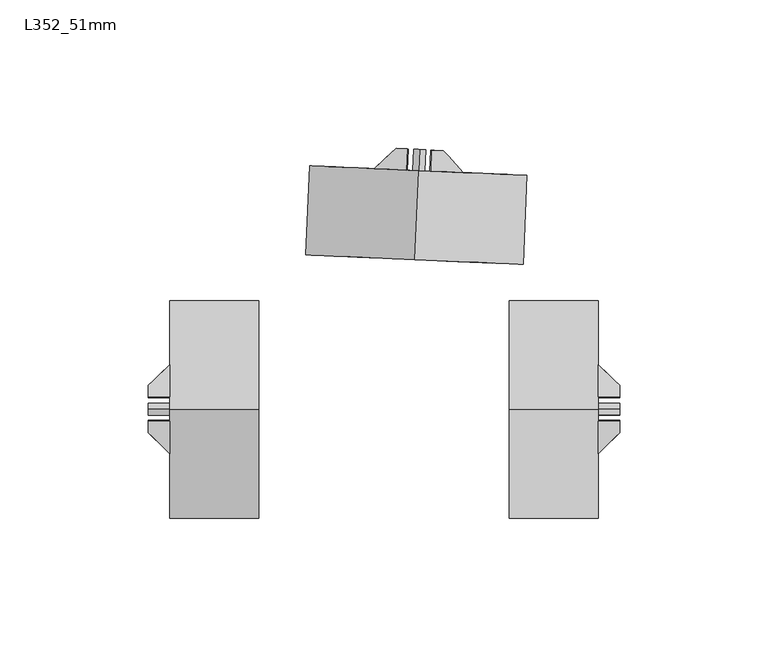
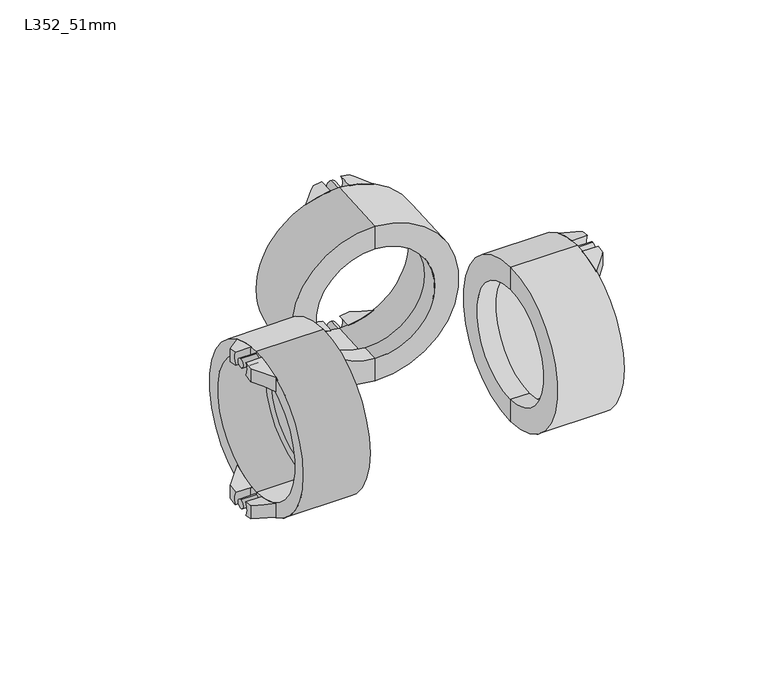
"""IFC4 building model written with IfcOpenShell, lengths in millimetres: pipe fitting geometry, Durapipe_PipeFitting_VulcatheneEnfusion_DoubleBranch_L35 : L352_51mm."""

from ifc_helpers import new_model, si_unit, point, frame, frame_2d, origin, place, context, project, spatial, polyline, circle_curve, ellipse_curve, trimmed, segment, composite_curve, outline, extrude, source, transform, mapped, element, save
from ifc_brep_helpers import plane_surface, cylinder_surface, revolved_surface, advanced_brep


def l352_51mm_22d35eec(model_context):
    return source(origin(), model_context, "Body", "SolidModel", [
        advanced_brep(
        [(71.122287, -3.7899065, 30.2636186), (71.122287, -4.1501333, 36.3136186), (71.122287, -7.94, 35.6771481), (71.122287, -7.94, 29.4483684), (64.022287, -15.0, 33.330204), (64.022287, -4.1501333, 36.3136186), (64.022287, -3.7899065, 30.2636186), (64.022287, -15.0, 26.5565434)],
        [
            (0, 1, circle_curve(frame((71.122287, 0.0, 33.525), z_axis=(-1.0, 0.0, 0.0), x_axis=(0.0, 0.0, -1.0)), 5.0)),
            (1, 2, circle_curve(frame((71.122287, 0.0, 0.0), z_axis=(1.0, 0.0, 0.0), x_axis=(0.0, 0.0, -1.0)), 36.55)),
            (2, 3),
            (3, 0, circle_curve(frame((71.122287, 0.0, 0.0), z_axis=(-1.0, 0.0, 0.0), x_axis=(0.0, 0.0, -1.0)), 30.5)),
            (4, 5, circle_curve(frame((64.022287, 0.0, 0.0), z_axis=(-1.0, 0.0, 0.0), x_axis=(0.0, 0.0, -1.0)), 36.55)),
            (5, 6, circle_curve(frame((64.022287, 0.0, 33.525), z_axis=(1.0, 0.0, 0.0), x_axis=(0.0, 0.0, -1.0)), 5.0)),
            (6, 7, circle_curve(frame((64.022287, 0.0, 0.0), z_axis=(1.0, 0.0, 0.0), x_axis=(0.0, 0.0, -1.0)), 30.5)),
            (7, 4),
            (6, 0),
            (3, 7, ellipse_curve(frame((79.1072729, 0.0, 0.0), z_axis=(0.705106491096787, -0.7091014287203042, 0.0), x_axis=(-0.7091014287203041, -0.705106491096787, 0.0)), 43.2558775, 30.5)),
            (4, 2, ellipse_curve(frame((79.1072729, 0.0, 0.0), z_axis=(-0.705106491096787, 0.7091014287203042, 0.0), x_axis=(0.7091014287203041, 0.705106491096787, 0.0)), 51.8361417, 36.55)),
            (1, 5),
        ],
        [
            plane_surface(frame((71.122287, -15.0, 33.330204), z_axis=(1.0, 0.0, 0.0), x_axis=(0.0, 0.0, -1.0))),
            plane_surface(frame((64.022287, -15.0, 33.330204), z_axis=(-1.0, 0.0, 0.0), x_axis=(0.0, 0.0, 1.0))),
            revolved_surface(polyline([(48.434468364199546, 0.0, -30.5), (109.78007743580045, 0.0, -30.5)]), (64.022287, 0.0, 0.0), (-1.0, 0.0, 0.0)),
            cylinder_surface(frame((64.022287, 0.0, 0.0), z_axis=(1.0, 0.0, 0.0), x_axis=(0.0, 0.0, -1.0)), 36.55),
            revolved_surface(polyline([(71.122287, 0.0, 28.525), (64.022287, 0.0, 28.525)]), (64.022287, 0.0, 33.525), (1.0, 0.0, 0.0)),
            plane_surface(frame((64.022287, -15.0, -36.55), z_axis=(0.705106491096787, -0.7091014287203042, 0.0), x_axis=(0.0, 0.0, 1.0))),
        ],
        [
            (0, [[1, 2, 3, 4]]),
            (1, [[5, 6, 7, 8]]),
            (2, [[-7, 9, -4, 10]]),
            (3, [[-5, 11, -2, 12]]),
            (4, [[-1, -9, -6, -12]]),
            (5, [[-3, -11, -8, -10]]),
        ],
    ),
        advanced_brep(
        [(71.122287, 4.1501333, 36.3136186), (71.122287, 3.7899065, 30.2636186), (71.122287, 7.94, 29.4483684), (71.122287, 7.94, 35.6771481), (64.022287, 4.1501333, 36.3136186), (64.022287, 15.0, 33.330204), (64.022287, 15.0, 26.5565434), (64.022287, 3.7899065, 30.2636186)],
        [
            (0, 1, circle_curve(frame((71.122287, 0.0, 33.525), z_axis=(-1.0, 0.0, 0.0), x_axis=(0.0, 0.0, -1.0)), 5.0)),
            (1, 2, circle_curve(frame((71.122287, 0.0, 0.0), z_axis=(-1.0, 0.0, 0.0), x_axis=(0.0, 0.0, -1.0)), 30.5)),
            (2, 3),
            (3, 0, circle_curve(frame((71.122287, 0.0, 0.0), z_axis=(1.0, 0.0, 0.0), x_axis=(0.0, 0.0, -1.0)), 36.55)),
            (4, 5, circle_curve(frame((64.022287, 0.0, 0.0), z_axis=(-1.0, 0.0, 0.0), x_axis=(0.0, 0.0, -1.0)), 36.55)),
            (5, 6),
            (6, 7, circle_curve(frame((64.022287, 0.0, 0.0), z_axis=(1.0, 0.0, 0.0), x_axis=(0.0, 0.0, -1.0)), 30.5)),
            (7, 4, circle_curve(frame((64.022287, 0.0, 33.525), z_axis=(1.0, 0.0, 0.0), x_axis=(0.0, 0.0, -1.0)), 5.0)),
            (6, 2, ellipse_curve(frame((79.1072729, 0.0, 0.0), z_axis=(0.7051064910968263, 0.7091014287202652, 0.0), x_axis=(-0.7091014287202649, 0.7051064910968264, 0.0)), 43.2558775, 30.5)),
            (1, 7),
            (4, 0),
            (3, 5, ellipse_curve(frame((79.1072729, 0.0, 0.0), z_axis=(-0.7051064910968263, -0.7091014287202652, 0.0), x_axis=(0.7091014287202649, -0.7051064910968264, 0.0)), 51.8361417, 36.55)),
        ],
        [
            plane_surface(frame((71.122287, -15.0, 33.330204), z_axis=(1.0, 0.0, 0.0), x_axis=(0.0, 0.0, -1.0))),
            plane_surface(frame((64.022287, -15.0, 33.330204), z_axis=(-1.0, 0.0, 0.0), x_axis=(0.0, 0.0, 1.0))),
            revolved_surface(polyline([(48.43446836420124, 0.0, -30.5), (109.78007743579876, 0.0, -30.5)]), (64.022287, 0.0, 0.0), (-1.0, 0.0, 0.0)),
            cylinder_surface(frame((64.022287, 0.0, 0.0), z_axis=(1.0, 0.0, 0.0), x_axis=(0.0, 0.0, -1.0)), 36.55),
            revolved_surface(polyline([(71.122287, 0.0, 28.525), (64.022287, 0.0, 28.525)]), (64.022287, 0.0, 33.525), (1.0, 0.0, 0.0)),
            plane_surface(frame((71.122287, 7.94, -36.55), z_axis=(0.7051064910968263, 0.7091014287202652, 0.0), x_axis=(0.0, 0.0, 1.0))),
        ],
        [
            (0, [[1, 2, 3, 4]]),
            (1, [[5, 6, 7, 8]]),
            (2, [[-7, 9, -2, 10]]),
            (3, [[-5, 11, -4, 12]]),
            (4, [[-1, -11, -8, -10]]),
            (5, [[-3, -9, -6, -12]]),
        ],
    ),
        advanced_brep(
        [(71.122287, -4.1501333, -36.3136186), (71.122287, -3.7899065, -30.2636186), (71.122287, -7.94, -29.4483684), (71.122287, -7.94, -35.6771481), (64.022287, -4.1501333, -36.3136186), (64.022287, -15.0, -33.330204), (64.022287, -15.0, -26.5565434), (64.022287, -3.7899065, -30.2636186)],
        [
            (0, 1, circle_curve(frame((71.122287, 0.0, -33.525), z_axis=(-1.0, 0.0, 0.0), x_axis=(0.0, 0.0, -1.0)), 5.0)),
            (1, 2, circle_curve(frame((71.122287, 0.0, 0.0), z_axis=(-1.0, 0.0, 0.0), x_axis=(0.0, 0.0, -1.0)), 30.5)),
            (2, 3),
            (3, 0, circle_curve(frame((71.122287, 0.0, 0.0), z_axis=(1.0, 0.0, 0.0), x_axis=(0.0, 0.0, -1.0)), 36.55)),
            (4, 5, circle_curve(frame((64.022287, 0.0, 0.0), z_axis=(-1.0, 0.0, 0.0), x_axis=(0.0, 0.0, -1.0)), 36.55)),
            (5, 6),
            (6, 7, circle_curve(frame((64.022287, 0.0, 0.0), z_axis=(1.0, 0.0, 0.0), x_axis=(0.0, 0.0, -1.0)), 30.5)),
            (7, 4, circle_curve(frame((64.022287, 0.0, -33.525), z_axis=(1.0, 0.0, 0.0), x_axis=(0.0, 0.0, -1.0)), 5.0)),
            (6, 2, ellipse_curve(frame((79.1072729, 0.0, 0.0), z_axis=(0.705106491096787, -0.7091014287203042, 0.0), x_axis=(-0.7091014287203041, -0.705106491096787, 0.0)), 43.2558775, 30.5)),
            (1, 7),
            (4, 0),
            (3, 5, ellipse_curve(frame((79.1072729, 0.0, 0.0), z_axis=(-0.705106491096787, 0.7091014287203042, 0.0), x_axis=(0.7091014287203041, 0.705106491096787, 0.0)), 51.8361417, 36.55)),
        ],
        [
            plane_surface(frame((71.122287, -15.0, 33.330204), z_axis=(1.0, 0.0, 0.0), x_axis=(0.0, 0.0, -1.0))),
            plane_surface(frame((64.022287, -15.0, 33.330204), z_axis=(-1.0, 0.0, 0.0), x_axis=(0.0, 0.0, 1.0))),
            revolved_surface(polyline([(48.434468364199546, 0.0, -30.5), (109.78007743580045, 0.0, -30.5)]), (64.022287, 0.0, 0.0), (-1.0, 0.0, 0.0)),
            cylinder_surface(frame((64.022287, 0.0, 0.0), z_axis=(1.0, 0.0, 0.0), x_axis=(0.0, 0.0, -1.0)), 36.55),
            revolved_surface(polyline([(71.122287, 0.0, -38.525), (64.022287, 0.0, -38.525)]), (64.022287, 0.0, -33.525), (1.0, 0.0, 0.0)),
            plane_surface(frame((64.022287, -15.0, -36.55), z_axis=(0.705106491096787, -0.7091014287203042, 0.0), x_axis=(0.0, 0.0, 1.0))),
        ],
        [
            (0, [[1, 2, 3, 4]]),
            (1, [[5, 6, 7, 8]]),
            (2, [[-7, 9, -2, 10]]),
            (3, [[-5, 11, -4, 12]]),
            (4, [[-1, -11, -8, -10]]),
            (5, [[-3, -9, -6, -12]]),
        ],
    ),
        advanced_brep(
        [(71.122287, 3.7899065, -30.2636186), (71.122287, 4.1501333, -36.3136186), (71.122287, 7.94, -35.6771481), (71.122287, 7.94, -29.4483684), (64.022287, 15.0, -33.330204), (64.022287, 4.1501333, -36.3136186), (64.022287, 3.7899065, -30.2636186), (64.022287, 15.0, -26.5565434)],
        [
            (0, 1, circle_curve(frame((71.122287, 0.0, -33.525), z_axis=(-1.0, 0.0, 0.0), x_axis=(0.0, 0.0, -1.0)), 5.0)),
            (1, 2, circle_curve(frame((71.122287, 0.0, 0.0), z_axis=(1.0, 0.0, 0.0), x_axis=(0.0, 0.0, -1.0)), 36.55)),
            (2, 3),
            (3, 0, circle_curve(frame((71.122287, 0.0, 0.0), z_axis=(-1.0, 0.0, 0.0), x_axis=(0.0, 0.0, -1.0)), 30.5)),
            (4, 5, circle_curve(frame((64.022287, 0.0, 0.0), z_axis=(-1.0, 0.0, 0.0), x_axis=(0.0, 0.0, -1.0)), 36.55)),
            (5, 6, circle_curve(frame((64.022287, 0.0, -33.525), z_axis=(1.0, 0.0, 0.0), x_axis=(0.0, 0.0, -1.0)), 5.0)),
            (6, 7, circle_curve(frame((64.022287, 0.0, 0.0), z_axis=(1.0, 0.0, 0.0), x_axis=(0.0, 0.0, -1.0)), 30.5)),
            (7, 4),
            (6, 0),
            (3, 7, ellipse_curve(frame((79.1072729, 0.0, 0.0), z_axis=(0.7051064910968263, 0.7091014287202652, 0.0), x_axis=(-0.7091014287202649, 0.7051064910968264, 0.0)), 43.2558775, 30.5)),
            (4, 2, ellipse_curve(frame((79.1072729, 0.0, 0.0), z_axis=(-0.7051064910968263, -0.7091014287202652, 0.0), x_axis=(0.7091014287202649, -0.7051064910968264, 0.0)), 51.8361417, 36.55)),
            (1, 5),
        ],
        [
            plane_surface(frame((71.122287, -15.0, 33.330204), z_axis=(1.0, 0.0, 0.0), x_axis=(0.0, 0.0, -1.0))),
            plane_surface(frame((64.022287, -15.0, 33.330204), z_axis=(-1.0, 0.0, 0.0), x_axis=(0.0, 0.0, 1.0))),
            revolved_surface(polyline([(48.43446836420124, 0.0, -30.5), (109.78007743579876, 0.0, -30.5)]), (64.022287, 0.0, 0.0), (-1.0, 0.0, 0.0)),
            cylinder_surface(frame((64.022287, 0.0, 0.0), z_axis=(1.0, 0.0, 0.0), x_axis=(0.0, 0.0, -1.0)), 36.55),
            revolved_surface(polyline([(71.122287, 0.0, -38.525), (64.022287, 0.0, -38.525)]), (64.022287, 0.0, -33.525), (1.0, 0.0, 0.0)),
            plane_surface(frame((71.122287, 7.94, -36.55), z_axis=(0.7051064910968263, 0.7091014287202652, 0.0), x_axis=(0.0, 0.0, 1.0))),
        ],
        [
            (0, [[1, 2, 3, 4]]),
            (1, [[5, 6, 7, 8]]),
            (2, [[-7, 9, -4, 10]]),
            (3, [[-5, 11, -2, 12]]),
            (4, [[-1, -9, -6, -12]]),
            (5, [[-3, -11, -8, -10]]),
        ],
    ),
        extrude(outline(composite_curve([segment(trimmed(circle_curve(frame_2d((0.0, 33.525)), 2.0), [point((0.0, 35.525))], [point((0.0, 31.525))], False, "CARTESIAN"), True, "CONTINUOUS"), segment(trimmed(circle_curve(frame_2d((0.0, 33.525)), 2.0), [point((0.0, 31.525))], [point((0.0, 35.525))], False, "CARTESIAN"), True, "CONTINUOUS")], self_intersect=False)), frame((64.022287, 0.0, 0.0), z_axis=(1.0, 0.0, 0.0), x_axis=(0.0, 1.0, 0.0)), (0.0, 0.0, 1.0), 7.1),
        extrude(outline(composite_curve([segment(trimmed(circle_curve(frame_2d((0.0, -33.525)), 2.0), [point((0.0, -31.525))], [point((0.0, -35.525))], False, "CARTESIAN"), True, "CONTINUOUS"), segment(trimmed(circle_curve(frame_2d((0.0, -33.525)), 2.0), [point((0.0, -35.525))], [point((0.0, -31.525))], False, "CARTESIAN"), True, "CONTINUOUS")], self_intersect=False)), frame((64.022287, 0.0, 0.0), z_axis=(1.0, 0.0, 0.0), x_axis=(0.0, 1.0, 0.0)), (0.0, 0.0, 1.0), 7.1),
        advanced_brep(
        [(42.422287, 0.0, 26.15), (42.422287, 0.0, -26.15), (42.422287, 0.0, -30.35), (42.422287, 0.0, 30.35), (34.022287, 0.0, 26.15), (34.022287, 0.0, -26.15), (34.022287, 0.0, 36.7), (34.022287, 0.0, -36.7), (64.022287, 0.0, 36.7), (64.022287, 0.0, -36.7), (64.022287, 0.0, 30.35), (64.022287, 0.0, -30.35)],
        [
            (0, 1, circle_curve(frame((42.422287, 0.0, 0.0), z_axis=(-1.0, 0.0, 0.0), x_axis=(0.0, 0.0, -1.0)), 26.15)),
            (1, 2),
            (2, 3, circle_curve(frame((42.422287, 0.0, 0.0), z_axis=(1.0, 0.0, 0.0), x_axis=(0.0, 0.0, -1.0)), 30.35)),
            (3, 0),
            (1, 0, circle_curve(frame((42.422287, 0.0, 0.0), z_axis=(-1.0, 0.0, 0.0), x_axis=(0.0, 0.0, -1.0)), 26.15)),
            (3, 2, circle_curve(frame((42.422287, 0.0, 0.0), z_axis=(1.0, 0.0, 0.0), x_axis=(0.0, 0.0, -1.0)), 30.35)),
            (4, 5, circle_curve(frame((34.022287, 0.0, 0.0), z_axis=(-1.0, 0.0, 0.0), x_axis=(0.0, 0.0, -1.0)), 26.15)),
            (5, 1),
            (0, 4),
            (5, 4, circle_curve(frame((34.022287, 0.0, 0.0), z_axis=(-1.0, 0.0, 0.0), x_axis=(0.0, 0.0, -1.0)), 26.15)),
            (6, 7, circle_curve(frame((34.022287, 0.0, 0.0), z_axis=(-1.0, 0.0, 0.0), x_axis=(0.0, 0.0, -1.0)), 36.7)),
            (7, 5),
            (4, 6),
            (7, 6, circle_curve(frame((34.022287, 0.0, 0.0), z_axis=(-1.0, 0.0, 0.0), x_axis=(0.0, 0.0, -1.0)), 36.7)),
            (8, 9, circle_curve(frame((64.022287, 0.0, 0.0), z_axis=(-1.0, 0.0, 0.0), x_axis=(0.0, 0.0, -1.0)), 36.7)),
            (9, 7),
            (6, 8),
            (9, 8, circle_curve(frame((64.022287, 0.0, 0.0), z_axis=(-1.0, 0.0, 0.0), x_axis=(0.0, 0.0, -1.0)), 36.7)),
            (10, 11, circle_curve(frame((64.022287, 0.0, 0.0), z_axis=(-1.0, 0.0, 0.0), x_axis=(0.0, 0.0, -1.0)), 30.35)),
            (11, 9),
            (8, 10),
            (11, 10, circle_curve(frame((64.022287, 0.0, 0.0), z_axis=(-1.0, 0.0, 0.0), x_axis=(0.0, 0.0, -1.0)), 30.35)),
            (2, 11),
            (10, 3),
        ],
        [
            plane_surface(frame((42.422287, 0.0, 0.0), z_axis=(1.0, 0.0, 0.0), x_axis=(0.0, 0.0, -1.0))),
            revolved_surface(polyline([(42.42228699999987, 0.0, -26.15), (34.02228699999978, 0.0, -26.15)]), (2578.0049111, 0.0, 0.0), (1.0, 0.0, 0.0)),
            plane_surface(frame((34.022287, 0.0, 0.0), z_axis=(-1.0, 0.0, 0.0), x_axis=(0.0, 0.0, -1.0))),
            cylinder_surface(frame((2578.0049111, 0.0, 0.0), z_axis=(1.0, 0.0, 0.0), x_axis=(0.0, 0.0, -1.0)), 36.7),
            plane_surface(frame((64.022287, 0.0, 0.0), z_axis=(1.0, 0.0, 0.0), x_axis=(0.0, 0.0, -1.0))),
            revolved_surface(polyline([(64.02228699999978, 0.0, -30.35), (42.42228699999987, 0.0, -30.35)]), (2578.0049111, 0.0, 0.0), (1.0, 0.0, 0.0)),
        ],
        [
            (0, [[1, 2, 3, 4]]),
            (0, [[5, -4, 6, -2]]),
            (1, [[7, 8, -1, 9]]),
            (1, [[10, -9, -5, -8]]),
            (2, [[11, 12, -7, 13]]),
            (2, [[14, -13, -10, -12]]),
            (3, [[15, 16, -11, 17]]),
            (3, [[18, -17, -14, -16]]),
            (4, [[19, 20, -15, 21]]),
            (4, [[22, -21, -18, -20]]),
            (5, [[-3, 23, -19, 24]]),
            (5, [[-6, -24, -22, -23]]),
        ],
    ),
        advanced_brep(
        [(-87.477713, -3.7899065, -30.2636186), (-87.477713, -4.1501333, -36.3136186), (-87.477713, -7.94, -35.6771481), (-87.477713, -7.94, -29.4483684), (-80.377713, -15.0, -33.330204), (-80.377713, -4.1501333, -36.3136186), (-80.377713, -3.7899065, -30.2636186), (-80.377713, -15.0, -26.5565434)],
        [
            (0, 1, circle_curve(frame((-87.477713, 0.0, -33.525), z_axis=(1.0, 0.0, 0.0), x_axis=(0.0, 0.0, 1.0)), 5.0)),
            (1, 2, circle_curve(frame((-87.477713, 0.0, 0.0), z_axis=(-1.0, 0.0, 0.0), x_axis=(0.0, 0.0, 1.0)), 36.55)),
            (2, 3),
            (3, 0, circle_curve(frame((-87.477713, 0.0, 0.0), z_axis=(1.0, 0.0, 0.0), x_axis=(0.0, 0.0, 1.0)), 30.5)),
            (4, 5, circle_curve(frame((-80.377713, 0.0, 0.0), z_axis=(1.0, 0.0, 0.0), x_axis=(0.0, 0.0, 1.0)), 36.55)),
            (5, 6, circle_curve(frame((-80.377713, 0.0, -33.525), z_axis=(-1.0, 0.0, 0.0), x_axis=(0.0, 0.0, 1.0)), 5.0)),
            (6, 7, circle_curve(frame((-80.377713, 0.0, 0.0), z_axis=(-1.0, 0.0, 0.0), x_axis=(0.0, 0.0, 1.0)), 30.5)),
            (7, 4),
            (6, 0),
            (3, 7, ellipse_curve(frame((-95.4626988, 0.0, 0.0), z_axis=(-0.705106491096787, -0.7091014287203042, 0.0), x_axis=(0.7091014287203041, -0.7051064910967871, 0.0)), 43.2558775, 30.5)),
            (4, 2, ellipse_curve(frame((-95.4626988, 0.0, 0.0), z_axis=(0.705106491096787, 0.7091014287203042, 0.0), x_axis=(-0.7091014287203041, 0.7051064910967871, 0.0)), 51.8361417, 36.55)),
            (1, 5),
        ],
        [
            plane_surface(frame((-87.477713, -15.0, -33.330204), z_axis=(-1.0, 0.0, 0.0), x_axis=(0.0, 0.0, 1.0))),
            plane_surface(frame((-80.377713, -15.0, -33.330204), z_axis=(1.0, 0.0, 0.0), x_axis=(0.0, 0.0, -1.0))),
            revolved_surface(polyline([(-64.78989426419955, 0.0, 30.5), (-126.13550333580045, 0.0, 30.5)]), (-80.377713, 0.0, 0.0), (1.0, 0.0, 0.0)),
            cylinder_surface(frame((-80.377713, 0.0, 0.0), z_axis=(-1.0, 0.0, 0.0), x_axis=(0.0, 0.0, 1.0)), 36.55),
            revolved_surface(polyline([(-87.477713, 0.0, -28.525), (-80.377713, 0.0, -28.525)]), (-80.377713, 0.0, -33.525), (-1.0, 0.0, 0.0)),
            plane_surface(frame((-80.377713, -15.0, 36.55), z_axis=(-0.705106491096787, -0.7091014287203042, 0.0), x_axis=(0.0, 0.0, -1.0))),
        ],
        [
            (0, [[1, 2, 3, 4]]),
            (1, [[5, 6, 7, 8]]),
            (2, [[-7, 9, -4, 10]]),
            (3, [[-5, 11, -2, 12]]),
            (4, [[-1, -9, -6, -12]]),
            (5, [[-3, -11, -8, -10]]),
        ],
    ),
        advanced_brep(
        [(-87.477713, 4.1501333, -36.3136186), (-87.477713, 3.7899065, -30.2636186), (-87.477713, 7.94, -29.4483684), (-87.477713, 7.94, -35.6771481), (-80.377713, 4.1501333, -36.3136186), (-80.377713, 15.0, -33.330204), (-80.377713, 15.0, -26.5565434), (-80.377713, 3.7899065, -30.2636186)],
        [
            (0, 1, circle_curve(frame((-87.477713, 0.0, -33.525), z_axis=(1.0, 0.0, 0.0), x_axis=(0.0, 0.0, 1.0)), 5.0)),
            (1, 2, circle_curve(frame((-87.477713, 0.0, 0.0), z_axis=(1.0, 0.0, 0.0), x_axis=(0.0, 0.0, 1.0)), 30.5)),
            (2, 3),
            (3, 0, circle_curve(frame((-87.477713, 0.0, 0.0), z_axis=(-1.0, 0.0, 0.0), x_axis=(0.0, 0.0, 1.0)), 36.55)),
            (4, 5, circle_curve(frame((-80.377713, 0.0, 0.0), z_axis=(1.0, 0.0, 0.0), x_axis=(0.0, 0.0, 1.0)), 36.55)),
            (5, 6),
            (6, 7, circle_curve(frame((-80.377713, 0.0, 0.0), z_axis=(-1.0, 0.0, 0.0), x_axis=(0.0, 0.0, 1.0)), 30.5)),
            (7, 4, circle_curve(frame((-80.377713, 0.0, -33.525), z_axis=(-1.0, 0.0, 0.0), x_axis=(0.0, 0.0, 1.0)), 5.0)),
            (6, 2, ellipse_curve(frame((-95.4626988, 0.0, 0.0), z_axis=(-0.7051064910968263, 0.7091014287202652, 0.0), x_axis=(0.7091014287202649, 0.7051064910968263, 0.0)), 43.2558775, 30.5)),
            (1, 7),
            (4, 0),
            (3, 5, ellipse_curve(frame((-95.4626988, 0.0, 0.0), z_axis=(0.7051064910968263, -0.7091014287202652, 0.0), x_axis=(-0.7091014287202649, -0.7051064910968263, 0.0)), 51.8361417, 36.55)),
        ],
        [
            plane_surface(frame((-87.477713, -15.0, -33.330204), z_axis=(-1.0, 0.0, 0.0), x_axis=(0.0, 0.0, 1.0))),
            plane_surface(frame((-80.377713, -15.0, -33.330204), z_axis=(1.0, 0.0, 0.0), x_axis=(0.0, 0.0, -1.0))),
            revolved_surface(polyline([(-64.78989426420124, 0.0, 30.5), (-126.13550333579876, 0.0, 30.5)]), (-80.377713, 0.0, 0.0), (1.0, 0.0, 0.0)),
            cylinder_surface(frame((-80.377713, 0.0, 0.0), z_axis=(-1.0, 0.0, 0.0), x_axis=(0.0, 0.0, 1.0)), 36.55),
            revolved_surface(polyline([(-87.477713, 0.0, -28.525), (-80.377713, 0.0, -28.525)]), (-80.377713, 0.0, -33.525), (-1.0, 0.0, 0.0)),
            plane_surface(frame((-87.477713, 7.94, 36.55), z_axis=(-0.7051064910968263, 0.7091014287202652, 0.0), x_axis=(0.0, 0.0, -1.0))),
        ],
        [
            (0, [[1, 2, 3, 4]]),
            (1, [[5, 6, 7, 8]]),
            (2, [[-7, 9, -2, 10]]),
            (3, [[-5, 11, -4, 12]]),
            (4, [[-1, -11, -8, -10]]),
            (5, [[-3, -9, -6, -12]]),
        ],
    ),
        advanced_brep(
        [(-87.477713, -4.1501333, 36.3136186), (-87.477713, -3.7899065, 30.2636186), (-87.477713, -7.94, 29.4483684), (-87.477713, -7.94, 35.6771481), (-80.377713, -4.1501333, 36.3136186), (-80.377713, -15.0, 33.330204), (-80.377713, -15.0, 26.5565434), (-80.377713, -3.7899065, 30.2636186)],
        [
            (0, 1, circle_curve(frame((-87.477713, 0.0, 33.525), z_axis=(1.0, 0.0, 0.0), x_axis=(0.0, 0.0, 1.0)), 5.0)),
            (1, 2, circle_curve(frame((-87.477713, 0.0, 0.0), z_axis=(1.0, 0.0, 0.0), x_axis=(0.0, 0.0, 1.0)), 30.5)),
            (2, 3),
            (3, 0, circle_curve(frame((-87.477713, 0.0, 0.0), z_axis=(-1.0, 0.0, 0.0), x_axis=(0.0, 0.0, 1.0)), 36.55)),
            (4, 5, circle_curve(frame((-80.377713, 0.0, 0.0), z_axis=(1.0, 0.0, 0.0), x_axis=(0.0, 0.0, 1.0)), 36.55)),
            (5, 6),
            (6, 7, circle_curve(frame((-80.377713, 0.0, 0.0), z_axis=(-1.0, 0.0, 0.0), x_axis=(0.0, 0.0, 1.0)), 30.5)),
            (7, 4, circle_curve(frame((-80.377713, 0.0, 33.525), z_axis=(-1.0, 0.0, 0.0), x_axis=(0.0, 0.0, 1.0)), 5.0)),
            (6, 2, ellipse_curve(frame((-95.4626988, 0.0, 0.0), z_axis=(-0.705106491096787, -0.7091014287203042, 0.0), x_axis=(0.7091014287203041, -0.7051064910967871, 0.0)), 43.2558775, 30.5)),
            (1, 7),
            (4, 0),
            (3, 5, ellipse_curve(frame((-95.4626988, 0.0, 0.0), z_axis=(0.705106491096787, 0.7091014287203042, 0.0), x_axis=(-0.7091014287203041, 0.7051064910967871, 0.0)), 51.8361417, 36.55)),
        ],
        [
            plane_surface(frame((-87.477713, -15.0, -33.330204), z_axis=(-1.0, 0.0, 0.0), x_axis=(0.0, 0.0, 1.0))),
            plane_surface(frame((-80.377713, -15.0, -33.330204), z_axis=(1.0, 0.0, 0.0), x_axis=(0.0, 0.0, -1.0))),
            revolved_surface(polyline([(-64.78989426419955, 0.0, 30.5), (-126.13550333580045, 0.0, 30.5)]), (-80.377713, 0.0, 0.0), (1.0, 0.0, 0.0)),
            cylinder_surface(frame((-80.377713, 0.0, 0.0), z_axis=(-1.0, 0.0, 0.0), x_axis=(0.0, 0.0, 1.0)), 36.55),
            revolved_surface(polyline([(-87.477713, 0.0, 38.525), (-80.377713, 0.0, 38.525)]), (-80.377713, 0.0, 33.525), (-1.0, 0.0, 0.0)),
            plane_surface(frame((-80.377713, -15.0, 36.55), z_axis=(-0.705106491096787, -0.7091014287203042, 0.0), x_axis=(0.0, 0.0, -1.0))),
        ],
        [
            (0, [[1, 2, 3, 4]]),
            (1, [[5, 6, 7, 8]]),
            (2, [[-7, 9, -2, 10]]),
            (3, [[-5, 11, -4, 12]]),
            (4, [[-1, -11, -8, -10]]),
            (5, [[-3, -9, -6, -12]]),
        ],
    ),
        advanced_brep(
        [(-87.477713, 3.7899065, 30.2636186), (-87.477713, 4.1501333, 36.3136186), (-87.477713, 7.94, 35.6771481), (-87.477713, 7.94, 29.4483684), (-80.377713, 15.0, 33.330204), (-80.377713, 4.1501333, 36.3136186), (-80.377713, 3.7899065, 30.2636186), (-80.377713, 15.0, 26.5565434)],
        [
            (0, 1, circle_curve(frame((-87.477713, 0.0, 33.525), z_axis=(1.0, 0.0, 0.0), x_axis=(0.0, 0.0, 1.0)), 5.0)),
            (1, 2, circle_curve(frame((-87.477713, 0.0, 0.0), z_axis=(-1.0, 0.0, 0.0), x_axis=(0.0, 0.0, 1.0)), 36.55)),
            (2, 3),
            (3, 0, circle_curve(frame((-87.477713, 0.0, 0.0), z_axis=(1.0, 0.0, 0.0), x_axis=(0.0, 0.0, 1.0)), 30.5)),
            (4, 5, circle_curve(frame((-80.377713, 0.0, 0.0), z_axis=(1.0, 0.0, 0.0), x_axis=(0.0, 0.0, 1.0)), 36.55)),
            (5, 6, circle_curve(frame((-80.377713, 0.0, 33.525), z_axis=(-1.0, 0.0, 0.0), x_axis=(0.0, 0.0, 1.0)), 5.0)),
            (6, 7, circle_curve(frame((-80.377713, 0.0, 0.0), z_axis=(-1.0, 0.0, 0.0), x_axis=(0.0, 0.0, 1.0)), 30.5)),
            (7, 4),
            (6, 0),
            (3, 7, ellipse_curve(frame((-95.4626988, 0.0, 0.0), z_axis=(-0.7051064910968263, 0.7091014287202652, 0.0), x_axis=(0.7091014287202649, 0.7051064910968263, 0.0)), 43.2558775, 30.5)),
            (4, 2, ellipse_curve(frame((-95.4626988, 0.0, 0.0), z_axis=(0.7051064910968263, -0.7091014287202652, 0.0), x_axis=(-0.7091014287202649, -0.7051064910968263, 0.0)), 51.8361417, 36.55)),
            (1, 5),
        ],
        [
            plane_surface(frame((-87.477713, -15.0, -33.330204), z_axis=(-1.0, 0.0, 0.0), x_axis=(0.0, 0.0, 1.0))),
            plane_surface(frame((-80.377713, -15.0, -33.330204), z_axis=(1.0, 0.0, 0.0), x_axis=(0.0, 0.0, -1.0))),
            revolved_surface(polyline([(-64.78989426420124, 0.0, 30.5), (-126.13550333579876, 0.0, 30.5)]), (-80.377713, 0.0, 0.0), (1.0, 0.0, 0.0)),
            cylinder_surface(frame((-80.377713, 0.0, 0.0), z_axis=(-1.0, 0.0, 0.0), x_axis=(0.0, 0.0, 1.0)), 36.55),
            revolved_surface(polyline([(-87.477713, 0.0, 38.525), (-80.377713, 0.0, 38.525)]), (-80.377713, 0.0, 33.525), (-1.0, 0.0, 0.0)),
            plane_surface(frame((-87.477713, 7.94, 36.55), z_axis=(-0.7051064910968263, 0.7091014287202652, 0.0), x_axis=(0.0, 0.0, -1.0))),
        ],
        [
            (0, [[1, 2, 3, 4]]),
            (1, [[5, 6, 7, 8]]),
            (2, [[-7, 9, -4, 10]]),
            (3, [[-5, 11, -2, 12]]),
            (4, [[-1, -9, -6, -12]]),
            (5, [[-3, -11, -8, -10]]),
        ],
    ),
        extrude(outline(composite_curve([segment(trimmed(circle_curve(frame_2d((0.0, -33.525)), 2.0), [point((0.0, -35.525))], [point((0.0, -31.525))], False, "CARTESIAN"), True, "CONTINUOUS"), segment(trimmed(circle_curve(frame_2d((0.0, -33.525)), 2.0), [point((0.0, -31.525))], [point((0.0, -35.525))], False, "CARTESIAN"), True, "CONTINUOUS")], self_intersect=False)), frame((-87.477713, 0.0, 0.0), z_axis=(1.0, 0.0, 0.0), x_axis=(0.0, 1.0, 0.0)), (0.0, 0.0, 1.0), 7.1),
        extrude(outline(composite_curve([segment(trimmed(circle_curve(frame_2d((0.0, 33.525)), 2.0), [point((0.0, 31.525))], [point((0.0, 35.525))], False, "CARTESIAN"), True, "CONTINUOUS"), segment(trimmed(circle_curve(frame_2d((0.0, 33.525)), 2.0), [point((0.0, 35.525))], [point((0.0, 31.525))], False, "CARTESIAN"), True, "CONTINUOUS")], self_intersect=False)), frame((-87.477713, 0.0, 0.0), z_axis=(1.0, 0.0, 0.0), x_axis=(0.0, 1.0, 0.0)), (0.0, 0.0, 1.0), 7.1),
        advanced_brep(
        [(-58.777713, 0.0, -26.15), (-58.777713, 0.0, 26.15), (-58.777713, 0.0, 30.35), (-58.777713, 0.0, -30.35), (-50.377713, 0.0, -26.15), (-50.377713, 0.0, 26.15), (-50.377713, 0.0, -36.7), (-50.377713, 0.0, 36.7), (-80.377713, 0.0, -36.7), (-80.377713, 0.0, 36.7), (-80.377713, 0.0, -30.35), (-80.377713, 0.0, 30.35)],
        [
            (0, 1, circle_curve(frame((-58.777713, 0.0, 0.0), z_axis=(1.0, 0.0, 0.0), x_axis=(0.0, 0.0, 1.0)), 26.15)),
            (1, 2),
            (2, 3, circle_curve(frame((-58.777713, 0.0, 0.0), z_axis=(-1.0, 0.0, 0.0), x_axis=(0.0, 0.0, 1.0)), 30.35)),
            (3, 0),
            (1, 0, circle_curve(frame((-58.777713, 0.0, 0.0), z_axis=(1.0, 0.0, 0.0), x_axis=(0.0, 0.0, 1.0)), 26.15)),
            (3, 2, circle_curve(frame((-58.777713, 0.0, 0.0), z_axis=(-1.0, 0.0, 0.0), x_axis=(0.0, 0.0, 1.0)), 30.35)),
            (4, 5, circle_curve(frame((-50.377713, 0.0, 0.0), z_axis=(1.0, 0.0, 0.0), x_axis=(0.0, 0.0, 1.0)), 26.15)),
            (5, 1),
            (0, 4),
            (5, 4, circle_curve(frame((-50.377713, 0.0, 0.0), z_axis=(1.0, 0.0, 0.0), x_axis=(0.0, 0.0, 1.0)), 26.15)),
            (6, 7, circle_curve(frame((-50.377713, 0.0, 0.0), z_axis=(1.0, 0.0, 0.0), x_axis=(0.0, 0.0, 1.0)), 36.7)),
            (7, 5),
            (4, 6),
            (7, 6, circle_curve(frame((-50.377713, 0.0, 0.0), z_axis=(1.0, 0.0, 0.0), x_axis=(0.0, 0.0, 1.0)), 36.7)),
            (8, 9, circle_curve(frame((-80.377713, 0.0, 0.0), z_axis=(1.0, 0.0, 0.0), x_axis=(0.0, 0.0, 1.0)), 36.7)),
            (9, 7),
            (6, 8),
            (9, 8, circle_curve(frame((-80.377713, 0.0, 0.0), z_axis=(1.0, 0.0, 0.0), x_axis=(0.0, 0.0, 1.0)), 36.7)),
            (10, 11, circle_curve(frame((-80.377713, 0.0, 0.0), z_axis=(1.0, 0.0, 0.0), x_axis=(0.0, 0.0, 1.0)), 30.35)),
            (11, 9),
            (8, 10),
            (11, 10, circle_curve(frame((-80.377713, 0.0, 0.0), z_axis=(1.0, 0.0, 0.0), x_axis=(0.0, 0.0, 1.0)), 30.35)),
            (2, 11),
            (10, 3),
        ],
        [
            plane_surface(frame((-58.777713, 0.0, 0.0), z_axis=(-1.0, 0.0, 0.0), x_axis=(0.0, 0.0, 1.0))),
            revolved_surface(polyline([(-58.77771299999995, 0.0, 26.15), (-50.37771299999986, 0.0, 26.15)]), (-2594.360337, 0.0, 0.0), (-1.0, 0.0, 0.0)),
            plane_surface(frame((-50.377713, 0.0, 0.0), z_axis=(1.0, 0.0, 0.0), x_axis=(0.0, 0.0, 1.0))),
            cylinder_surface(frame((-2594.360337, 0.0, 0.0), z_axis=(-1.0, 0.0, 0.0), x_axis=(0.0, 0.0, 1.0)), 36.7),
            plane_surface(frame((-80.377713, 0.0, 0.0), z_axis=(-1.0, 0.0, 0.0), x_axis=(0.0, 0.0, 1.0))),
            revolved_surface(polyline([(-80.37771299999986, 0.0, 30.35), (-58.77771299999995, 0.0, 30.35)]), (-2594.360337, 0.0, 0.0), (-1.0, 0.0, 0.0)),
        ],
        [
            (0, [[1, 2, 3, 4]]),
            (0, [[5, -4, 6, -2]]),
            (1, [[7, 8, -1, 9]]),
            (1, [[10, -9, -5, -8]]),
            (2, [[11, 12, -7, 13]]),
            (2, [[14, -13, -10, -12]]),
            (3, [[15, 16, -11, 17]]),
            (3, [[18, -17, -14, -16]]),
            (4, [[19, 20, -15, 21]]),
            (4, [[22, -21, -18, -20]]),
            (5, [[-3, 23, -19, 24]]),
            (5, [[-6, -24, -22, -23]]),
        ],
    ),
        advanced_brep(
        [(0.0294249, 87.559767, -30.2636186), (-0.3304591, 87.5754798, -36.3136186), (-4.1167186, 87.7407915, -35.6771481), (-4.1167186, 87.7407915, -29.4483684), (-11.4796967, 80.955502, -33.330204), (-0.6401567, 80.4822375, -36.3136186), (-0.2802727, 80.4665246, -30.2636186), (-11.4796967, 80.955502, -26.5565434)],
        [
            (0, 1, circle_curve(frame((3.8157242, 87.3944536, -33.525), z_axis=(-0.04361938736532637, -0.9990482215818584, 0.0), x_axis=(0.0, 0.0, 1.0)), 5.0)),
            (1, 2, circle_curve(frame((3.8157242, 87.3944536, 0.0), z_axis=(0.04361938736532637, 0.9990482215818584, 0.0), x_axis=(0.0, 0.0, 1.0)), 36.55)),
            (2, 3),
            (3, 0, circle_curve(frame((3.8157242, 87.3944536, 0.0), z_axis=(-0.04361938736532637, -0.9990482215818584, 0.0), x_axis=(0.0, 0.0, 1.0)), 30.5)),
            (4, 5, circle_curve(frame((3.5060266, 80.3012112, 0.0), z_axis=(-0.04361938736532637, -0.9990482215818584, 0.0), x_axis=(0.0, 0.0, 1.0)), 36.55)),
            (5, 6, circle_curve(frame((3.5060266, 80.3012112, -33.525), z_axis=(0.04361938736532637, 0.9990482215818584, 0.0), x_axis=(0.0, 0.0, 1.0)), 5.0)),
            (6, 7, circle_curve(frame((3.5060266, 80.3012112, 0.0), z_axis=(0.04361938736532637, 0.9990482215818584, 0.0), x_axis=(0.0, 0.0, 1.0)), 30.5)),
            (7, 4),
            (6, 0),
            (3, 7, ellipse_curve(frame((4.1640244, 95.3718395, 0.0), z_axis=(-0.6776702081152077, 0.735365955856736, 0.0), x_axis=(-0.7353659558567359, -0.6776702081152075, 0.0)), 43.2558775, 30.5)),
            (4, 2, ellipse_curve(frame((4.1640244, 95.3718395, 0.0), z_axis=(0.6776702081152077, -0.735365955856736, 0.0), x_axis=(0.7353659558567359, 0.6776702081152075, 0.0)), 51.8361417, 36.55)),
            (1, 5),
        ],
        [
            plane_surface(frame((-11.1699991, 88.0487444, -33.330204), z_axis=(0.04361938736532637, 0.9990482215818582, 0.0), x_axis=(0.0, 0.0, 1.0))),
            plane_surface(frame((-11.4796967, 80.955502, -33.330204), z_axis=(-0.04361938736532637, -0.9990482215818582, 0.0), x_axis=(0.0, 0.0, -1.0))),
            revolved_surface(polyline([(2.826095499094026, 64.72822867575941, 30.5), (5.501953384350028, 126.01545032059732, 30.5)]), (3.5060266, 80.3012112, 0.0), (-0.04361938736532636, -0.9990482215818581, 0.0)),
            cylinder_surface(frame((3.5060266, 80.3012112, 0.0), z_axis=(0.04361938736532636, 0.9990482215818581, 0.0), x_axis=(0.0, 0.0, 1.0)), 36.55),
            revolved_surface(polyline([(3.815724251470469, 87.39445360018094, -28.525), (3.5060266, 80.3012112, -28.525)]), (3.5060266, 80.3012112, -33.525), (0.04361938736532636, 0.9990482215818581, 0.0)),
            plane_surface(frame((-11.4796967, 80.955502, 36.55), z_axis=(-0.6776702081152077, 0.735365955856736, 0.0), x_axis=(0.0, 0.0, -1.0))),
        ],
        [
            (0, [[1, 2, 3, 4]]),
            (1, [[5, 6, 7, 8]]),
            (2, [[-7, 9, -4, 10]]),
            (3, [[-5, 11, -2, 12]]),
            (4, [[-1, -9, -6, -12]]),
            (5, [[-3, -11, -8, -10]]),
        ],
    ),
        advanced_brep(
        [(7.9619075, 87.2134273, -36.3136186), (7.6020236, 87.2291402, -30.2636186), (11.7481671, 87.0481156, -29.4483684), (11.7481671, 87.0481156, -35.6771481), (7.6522099, 80.1201849, -36.3136186), (18.4917499, 79.6469204, -33.330204), (18.4917499, 79.6469204, -26.5565434), (7.2923259, 80.1358978, -30.2636186)],
        [
            (0, 1, circle_curve(frame((3.8157242, 87.3944536, -33.525), z_axis=(-0.04361938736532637, -0.9990482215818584, 0.0), x_axis=(0.0, 0.0, 1.0)), 5.0)),
            (1, 2, circle_curve(frame((3.8157242, 87.3944536, 0.0), z_axis=(-0.04361938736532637, -0.9990482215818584, 0.0), x_axis=(0.0, 0.0, 1.0)), 30.5)),
            (2, 3),
            (3, 0, circle_curve(frame((3.8157242, 87.3944536, 0.0), z_axis=(0.04361938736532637, 0.9990482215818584, 0.0), x_axis=(0.0, 0.0, 1.0)), 36.55)),
            (4, 5, circle_curve(frame((3.5060266, 80.3012112, 0.0), z_axis=(-0.04361938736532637, -0.9990482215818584, 0.0), x_axis=(0.0, 0.0, 1.0)), 36.55)),
            (5, 6),
            (6, 7, circle_curve(frame((3.5060266, 80.3012112, 0.0), z_axis=(0.04361938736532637, 0.9990482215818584, 0.0), x_axis=(0.0, 0.0, 1.0)), 30.5)),
            (7, 4, circle_curve(frame((3.5060266, 80.3012112, -33.525), z_axis=(0.04361938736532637, 0.9990482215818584, 0.0), x_axis=(0.0, 0.0, 1.0)), 5.0)),
            (6, 2, ellipse_curve(frame((4.1640244, 95.3718395, 0.0), z_axis=(0.7391828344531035, 0.6735048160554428, 0.0), x_axis=(0.6735048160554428, -0.7391828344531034, 0.0)), 43.2558775, 30.5)),
            (1, 7),
            (4, 0),
            (3, 5, ellipse_curve(frame((4.1640244, 95.3718395, 0.0), z_axis=(-0.7391828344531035, -0.6735048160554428, 0.0), x_axis=(-0.6735048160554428, 0.7391828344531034, 0.0)), 51.8361417, 36.55)),
        ],
        [
            plane_surface(frame((-11.1699991, 88.0487444, -33.330204), z_axis=(0.04361938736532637, 0.9990482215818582, 0.0), x_axis=(0.0, 0.0, 1.0))),
            plane_surface(frame((-11.4796967, 80.955502, -33.330204), z_axis=(-0.04361938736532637, -0.9990482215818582, 0.0), x_axis=(0.0, 0.0, -1.0))),
            revolved_surface(polyline([(2.8260954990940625, 64.72822867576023, 30.5), (5.501953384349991, 126.0154503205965, 30.5)]), (3.5060266, 80.3012112, 0.0), (-0.04361938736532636, -0.9990482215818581, 0.0)),
            cylinder_surface(frame((3.5060266, 80.3012112, 0.0), z_axis=(0.04361938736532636, 0.9990482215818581, 0.0), x_axis=(0.0, 0.0, 1.0)), 36.55),
            revolved_surface(polyline([(3.815724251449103, 87.39445359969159, -28.525), (3.50602659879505, 80.30121117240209, -28.525)]), (3.5060266, 80.3012112, -33.525), (0.04361938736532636, 0.9990482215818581, 0.0)),
            plane_surface(frame((11.7481671, 87.0481156, 36.55), z_axis=(0.7391828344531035, 0.6735048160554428, 0.0), x_axis=(0.0, 0.0, -1.0))),
        ],
        [
            (0, [[1, 2, 3, 4]]),
            (1, [[5, 6, 7, 8]]),
            (2, [[-7, 9, -2, 10]]),
            (3, [[-5, 11, -4, 12]]),
            (4, [[-1, -11, -8, -10]]),
            (5, [[-3, -9, -6, -12]]),
        ],
    ),
        advanced_brep(
        [(-0.3304591, 87.5754798, 36.3136186), (0.0294249, 87.559767, 30.2636186), (-4.1167186, 87.7407915, 29.4483684), (-4.1167186, 87.7407915, 35.6771481), (-0.6401567, 80.4822375, 36.3136186), (-11.4796967, 80.955502, 33.330204), (-11.4796967, 80.955502, 26.5565434), (-0.2802727, 80.4665246, 30.2636186)],
        [
            (0, 1, circle_curve(frame((3.8157242, 87.3944536, 33.525), z_axis=(-0.04361938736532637, -0.9990482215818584, 0.0), x_axis=(0.0, 0.0, 1.0)), 5.0)),
            (1, 2, circle_curve(frame((3.8157242, 87.3944536, 0.0), z_axis=(-0.04361938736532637, -0.9990482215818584, 0.0), x_axis=(0.0, 0.0, 1.0)), 30.5)),
            (2, 3),
            (3, 0, circle_curve(frame((3.8157242, 87.3944536, 0.0), z_axis=(0.04361938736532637, 0.9990482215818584, 0.0), x_axis=(0.0, 0.0, 1.0)), 36.55)),
            (4, 5, circle_curve(frame((3.5060266, 80.3012112, 0.0), z_axis=(-0.04361938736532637, -0.9990482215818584, 0.0), x_axis=(0.0, 0.0, 1.0)), 36.55)),
            (5, 6),
            (6, 7, circle_curve(frame((3.5060266, 80.3012112, 0.0), z_axis=(0.04361938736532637, 0.9990482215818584, 0.0), x_axis=(0.0, 0.0, 1.0)), 30.5)),
            (7, 4, circle_curve(frame((3.5060266, 80.3012112, 33.525), z_axis=(0.04361938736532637, 0.9990482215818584, 0.0), x_axis=(0.0, 0.0, 1.0)), 5.0)),
            (6, 2, ellipse_curve(frame((4.1640244, 95.3718395, 0.0), z_axis=(-0.6776702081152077, 0.735365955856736, 0.0), x_axis=(-0.7353659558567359, -0.6776702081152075, 0.0)), 43.2558775, 30.5)),
            (1, 7),
            (4, 0),
            (3, 5, ellipse_curve(frame((4.1640244, 95.3718395, 0.0), z_axis=(0.6776702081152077, -0.735365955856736, 0.0), x_axis=(0.7353659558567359, 0.6776702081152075, 0.0)), 51.8361417, 36.55)),
        ],
        [
            plane_surface(frame((-11.1699991, 88.0487444, -33.330204), z_axis=(0.04361938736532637, 0.9990482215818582, 0.0), x_axis=(0.0, 0.0, 1.0))),
            plane_surface(frame((-11.4796967, 80.955502, -33.330204), z_axis=(-0.04361938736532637, -0.9990482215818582, 0.0), x_axis=(0.0, 0.0, -1.0))),
            revolved_surface(polyline([(2.826095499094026, 64.72822867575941, 30.5), (5.501953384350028, 126.01545032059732, 30.5)]), (3.5060266, 80.3012112, 0.0), (-0.04361938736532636, -0.9990482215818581, 0.0)),
            cylinder_surface(frame((3.5060266, 80.3012112, 0.0), z_axis=(0.04361938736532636, 0.9990482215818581, 0.0), x_axis=(0.0, 0.0, 1.0)), 36.55),
            revolved_surface(polyline([(3.815724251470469, 87.39445360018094, 38.525), (3.5060266, 80.3012112, 38.525)]), (3.5060266, 80.3012112, 33.525), (0.04361938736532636, 0.9990482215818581, 0.0)),
            plane_surface(frame((-11.4796967, 80.955502, 36.55), z_axis=(-0.6776702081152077, 0.735365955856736, 0.0), x_axis=(0.0, 0.0, -1.0))),
        ],
        [
            (0, [[1, 2, 3, 4]]),
            (1, [[5, 6, 7, 8]]),
            (2, [[-7, 9, -2, 10]]),
            (3, [[-5, 11, -4, 12]]),
            (4, [[-1, -11, -8, -10]]),
            (5, [[-3, -9, -6, -12]]),
        ],
    ),
        advanced_brep(
        [(7.6020236, 87.2291402, 30.2636186), (7.9619075, 87.2134273, 36.3136186), (11.7481671, 87.0481156, 35.6771481), (11.7481671, 87.0481156, 29.4483684), (18.4917499, 79.6469204, 33.330204), (7.6522099, 80.1201849, 36.3136186), (7.2923259, 80.1358978, 30.2636186), (18.4917499, 79.6469204, 26.5565434)],
        [
            (0, 1, circle_curve(frame((3.8157242, 87.3944536, 33.525), z_axis=(-0.04361938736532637, -0.9990482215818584, 0.0), x_axis=(0.0, 0.0, 1.0)), 5.0)),
            (1, 2, circle_curve(frame((3.8157242, 87.3944536, 0.0), z_axis=(0.04361938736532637, 0.9990482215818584, 0.0), x_axis=(0.0, 0.0, 1.0)), 36.55)),
            (2, 3),
            (3, 0, circle_curve(frame((3.8157242, 87.3944536, 0.0), z_axis=(-0.04361938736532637, -0.9990482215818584, 0.0), x_axis=(0.0, 0.0, 1.0)), 30.5)),
            (4, 5, circle_curve(frame((3.5060266, 80.3012112, 0.0), z_axis=(-0.04361938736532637, -0.9990482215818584, 0.0), x_axis=(0.0, 0.0, 1.0)), 36.55)),
            (5, 6, circle_curve(frame((3.5060266, 80.3012112, 33.525), z_axis=(0.04361938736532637, 0.9990482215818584, 0.0), x_axis=(0.0, 0.0, 1.0)), 5.0)),
            (6, 7, circle_curve(frame((3.5060266, 80.3012112, 0.0), z_axis=(0.04361938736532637, 0.9990482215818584, 0.0), x_axis=(0.0, 0.0, 1.0)), 30.5)),
            (7, 4),
            (6, 0),
            (3, 7, ellipse_curve(frame((4.1640244, 95.3718395, 0.0), z_axis=(0.7391828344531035, 0.6735048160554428, 0.0), x_axis=(0.6735048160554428, -0.7391828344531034, 0.0)), 43.2558775, 30.5)),
            (4, 2, ellipse_curve(frame((4.1640244, 95.3718395, 0.0), z_axis=(-0.7391828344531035, -0.6735048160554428, 0.0), x_axis=(-0.6735048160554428, 0.7391828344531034, 0.0)), 51.8361417, 36.55)),
            (1, 5),
        ],
        [
            plane_surface(frame((-11.1699991, 88.0487444, -33.330204), z_axis=(0.04361938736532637, 0.9990482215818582, 0.0), x_axis=(0.0, 0.0, 1.0))),
            plane_surface(frame((-11.4796967, 80.955502, -33.330204), z_axis=(-0.04361938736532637, -0.9990482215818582, 0.0), x_axis=(0.0, 0.0, -1.0))),
            revolved_surface(polyline([(2.8260954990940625, 64.72822867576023, 30.5), (5.501953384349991, 126.0154503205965, 30.5)]), (3.5060266, 80.3012112, 0.0), (-0.04361938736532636, -0.9990482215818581, 0.0)),
            cylinder_surface(frame((3.5060266, 80.3012112, 0.0), z_axis=(0.04361938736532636, 0.9990482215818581, 0.0), x_axis=(0.0, 0.0, 1.0)), 36.55),
            revolved_surface(polyline([(3.815724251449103, 87.39445359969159, 38.525), (3.50602659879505, 80.30121117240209, 38.525)]), (3.5060266, 80.3012112, 33.525), (0.04361938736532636, 0.9990482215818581, 0.0)),
            plane_surface(frame((11.7481671, 87.0481156, 36.55), z_axis=(0.7391828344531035, 0.6735048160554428, 0.0), x_axis=(0.0, 0.0, -1.0))),
        ],
        [
            (0, [[1, 2, 3, 4]]),
            (1, [[5, 6, 7, 8]]),
            (2, [[-7, 9, -4, 10]]),
            (3, [[-5, 11, -2, 12]]),
            (4, [[-1, -9, -6, -12]]),
            (5, [[-3, -11, -8, -10]]),
        ],
    ),
        extrude(outline(composite_curve([segment(trimmed(circle_curve(frame_2d((0.0, -2.0)), 2.0), [point((0.0, -4.0))], [point((0.0, 0.0))], False, "CARTESIAN"), True, "CONTINUOUS"), segment(trimmed(circle_curve(frame_2d((0.0, -2.0)), 2.0), [point((0.0, 0.0))], [point((0.0, -4.0))], False, "CARTESIAN"), True, "CONTINUOUS")], self_intersect=False)), frame((3.5060266, 80.3012112, -31.525), z_axis=(0.04361938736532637, 0.9990482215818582, 0.0), x_axis=(-0.9990482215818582, 0.04361938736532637, 0.0)), (0.0, 0.0, 1.0), 7.1),
        extrude(outline(composite_curve([segment(trimmed(circle_curve(frame_2d((0.0, 65.05)), 2.0), [point((0.0, 63.05))], [point((0.0, 67.05))], False, "CARTESIAN"), True, "CONTINUOUS"), segment(trimmed(circle_curve(frame_2d((0.0, 65.05)), 2.0), [point((0.0, 67.05))], [point((0.0, 63.05))], False, "CARTESIAN"), True, "CONTINUOUS")], self_intersect=False)), frame((3.5060266, 80.3012112, -31.525), z_axis=(0.04361938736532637, 0.9990482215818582, 0.0), x_axis=(-0.9990482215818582, 0.04361938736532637, 0.0)), (0.0, 0.0, 1.0), 7.1),
        advanced_brep(
        [(2.5638478, 58.7217696, -26.15), (2.5638478, 58.7217696, 26.15), (2.5638478, 58.7217696, 30.35), (2.5638478, 58.7217696, -30.35), (2.197445, 50.3297646, -26.15), (2.197445, 50.3297646, 26.15), (2.197445, 50.3297646, -36.7), (2.197445, 50.3297646, 36.7), (3.5060266, 80.3012112, -36.7), (3.5060266, 80.3012112, 36.7), (3.5060266, 80.3012112, -30.35), (3.5060266, 80.3012112, 30.35)],
        [
            (0, 1, circle_curve(frame((2.5638478, 58.7217696, 0.0), z_axis=(-0.04361938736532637, -0.9990482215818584, 0.0), x_axis=(0.0, 0.0, 1.0)), 26.15)),
            (1, 2),
            (2, 3, circle_curve(frame((2.5638478, 58.7217696, 0.0), z_axis=(0.04361938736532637, 0.9990482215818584, 0.0), x_axis=(0.0, 0.0, 1.0)), 30.35)),
            (3, 0),
            (1, 0, circle_curve(frame((2.5638478, 58.7217696, 0.0), z_axis=(-0.04361938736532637, -0.9990482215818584, 0.0), x_axis=(0.0, 0.0, 1.0)), 26.15)),
            (3, 2, circle_curve(frame((2.5638478, 58.7217696, 0.0), z_axis=(0.04361938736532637, 0.9990482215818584, 0.0), x_axis=(0.0, 0.0, 1.0)), 30.35)),
            (4, 5, circle_curve(frame((2.197445, 50.3297646, 0.0), z_axis=(-0.04361938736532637, -0.9990482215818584, 0.0), x_axis=(0.0, 0.0, 1.0)), 26.15)),
            (5, 1),
            (0, 4),
            (5, 4, circle_curve(frame((2.197445, 50.3297646, 0.0), z_axis=(-0.04361938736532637, -0.9990482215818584, 0.0), x_axis=(0.0, 0.0, 1.0)), 26.15)),
            (6, 7, circle_curve(frame((2.197445, 50.3297646, 0.0), z_axis=(-0.04361938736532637, -0.9990482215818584, 0.0), x_axis=(0.0, 0.0, 1.0)), 36.7)),
            (7, 5),
            (4, 6),
            (7, 6, circle_curve(frame((2.197445, 50.3297646, 0.0), z_axis=(-0.04361938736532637, -0.9990482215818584, 0.0), x_axis=(0.0, 0.0, 1.0)), 36.7)),
            (8, 9, circle_curve(frame((3.5060266, 80.3012112, 0.0), z_axis=(-0.04361938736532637, -0.9990482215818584, 0.0), x_axis=(0.0, 0.0, 1.0)), 36.7)),
            (9, 7),
            (6, 8),
            (9, 8, circle_curve(frame((3.5060266, 80.3012112, 0.0), z_axis=(-0.04361938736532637, -0.9990482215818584, 0.0), x_axis=(0.0, 0.0, 1.0)), 36.7)),
            (10, 11, circle_curve(frame((3.5060266, 80.3012112, 0.0), z_axis=(-0.04361938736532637, -0.9990482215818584, 0.0), x_axis=(0.0, 0.0, 1.0)), 30.35)),
            (11, 9),
            (8, 10),
            (11, 10, circle_curve(frame((3.5060266, 80.3012112, 0.0), z_axis=(-0.04361938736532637, -0.9990482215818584, 0.0), x_axis=(0.0, 0.0, 1.0)), 30.35)),
            (2, 11),
            (10, 3),
        ],
        [
            plane_surface(frame((2.5638478, 58.7217696, 0.0), z_axis=(0.04361938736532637, 0.9990482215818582, 0.0), x_axis=(0.0, 0.0, 1.0))),
            revolved_surface(polyline([(2.5638478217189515, 58.72176959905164, 26.15), (2.1974449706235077, 50.32976460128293, 26.15)]), (113.1644085, 2591.8910809, 0.0), (0.04361938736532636, 0.9990482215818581, 0.0)),
            plane_surface(frame((2.197445, 50.3297646, 0.0), z_axis=(-0.04361938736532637, -0.9990482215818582, 0.0), x_axis=(0.0, 0.0, 1.0))),
            cylinder_surface(frame((113.1644085, 2591.8910809, 0.0), z_axis=(0.04361938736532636, 0.9990482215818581, 0.0), x_axis=(0.0, 0.0, 1.0)), 36.7),
            plane_surface(frame((3.5060266, 80.3012112, 0.0), z_axis=(0.04361938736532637, 0.9990482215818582, 0.0), x_axis=(0.0, 0.0, 1.0))),
            revolved_surface(polyline([(3.506026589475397, 80.30121120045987, 30.35), (2.5638478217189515, 58.72176959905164, 30.35)]), (113.1644085, 2591.8910809, 0.0), (0.04361938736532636, 0.9990482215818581, 0.0)),
        ],
        [
            (0, [[1, 2, 3, 4]]),
            (0, [[5, -4, 6, -2]]),
            (1, [[7, 8, -1, 9]]),
            (1, [[10, -9, -5, -8]]),
            (2, [[11, 12, -7, 13]]),
            (2, [[14, -13, -10, -12]]),
            (3, [[15, 16, -11, 17]]),
            (3, [[18, -17, -14, -16]]),
            (4, [[19, 20, -15, 21]]),
            (4, [[22, -21, -18, -20]]),
            (5, [[-3, 23, -19, 24]]),
            (5, [[-6, -24, -22, -23]]),
        ],
    ),
    ])


if __name__ == "__main__":
    model = new_model("IFC4")
    model_context = context("Model", 3, world=origin())
    ifc_project = project(units=[si_unit("LENGTHUNIT", "METRE", prefix="MILLI")], contexts=[model_context])
    site = spatial("IfcSite", under=ifc_project)
    building = spatial("IfcBuilding", under=site)
    placement = place(None, origin())
    l352_51mm_shape = l352_51mm_22d35eec(model_context)
    element("IfcPipeFitting", 1, ObjectType="Durapipe_PipeFitting_VulcatheneEnfusion_DoubleBranch_L35 : L352_51mm", at=placement, inside=building, context=model_context, shape_type="MappedRepresentation", body=[
        mapped(l352_51mm_shape, transform((0.0, 0.0, 0.0), x_axis=(1.0, 0.0, 0.0), y_axis=(0.0, 1.0, 0.0), z_axis=(0.0, 0.0, 1.0))),
    ])
    save(model, "model.ifc")
